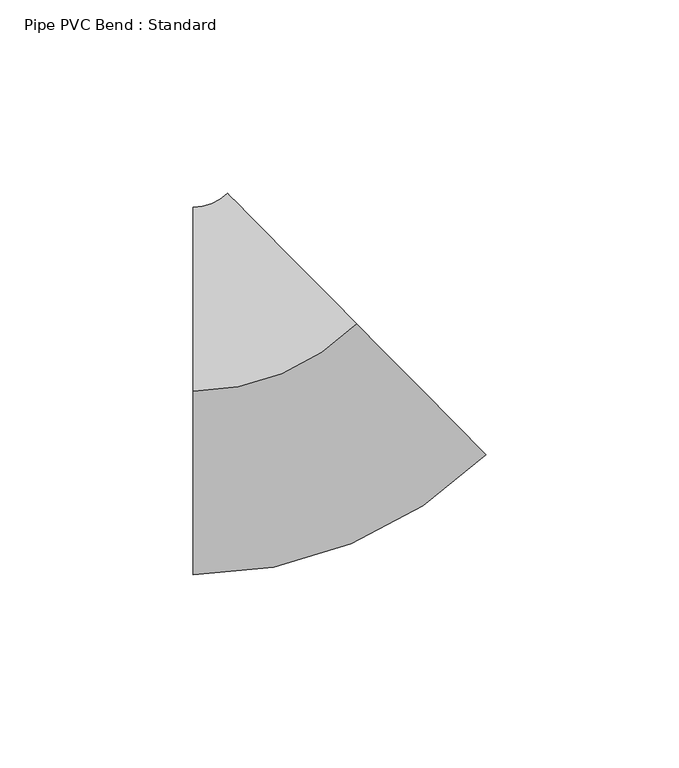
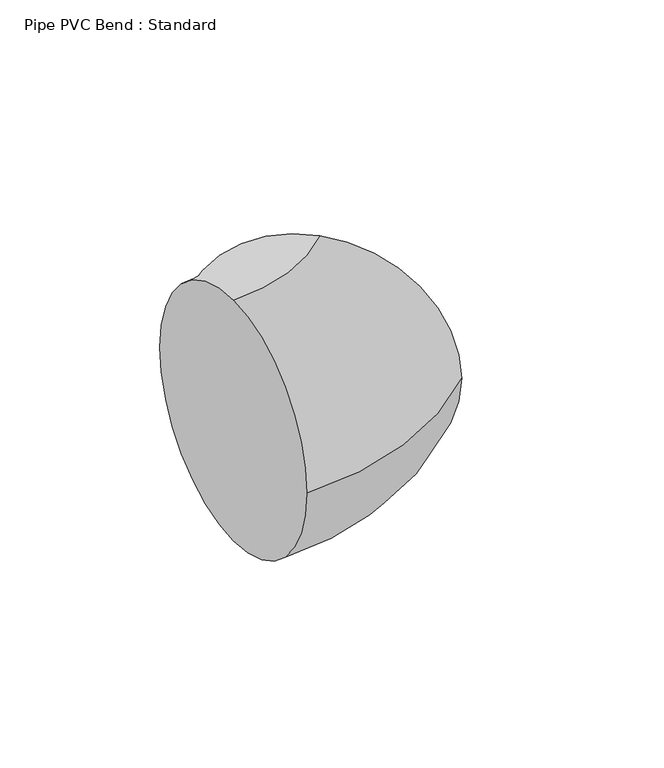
"""IFC4 building model written with IfcOpenShell, lengths in millimetres: pipe fitting geometry, Pipe PVC Bend : Standard."""

from ifc_helpers import new_model, si_unit, point, frame, origin, place, context, project, spatial, circle_curve, ellipse_curve, trimmed, source, transform, mapped, element, save
from ifc_brep_helpers import plane_surface, revolved_surface, advanced_brep


def pipe_pvc_bend_standard_344f7d17(model_context):
    return source(origin(), model_context, "Body", "AdvancedBrep", [
        advanced_brep(
        [(-24.789614, 0.0, 47.625), (-24.789614, 47.625, 0.0), (-24.789614, 0.0, -47.625), (-24.789614, -47.625, 0.0), (17.6268685, 17.4303892, 47.625), (51.1135652, -16.4337773, 0.0), (17.6268685, 17.4303892, -47.625), (-15.8598282, 51.2945556, 0.0)],
        [
            (0, 1, circle_curve(frame((-24.789614, 0.0, 0.0), z_axis=(-1.0, 0.0, 0.0), x_axis=(0.0, 1.0, 0.0)), 47.625)),
            (1, 2, circle_curve(frame((-24.789614, 0.0, 0.0), z_axis=(-1.0, 0.0, 0.0), x_axis=(0.0, 1.0, 0.0)), 47.625)),
            (2, 3, circle_curve(frame((-24.789614, 0.0, 0.0), z_axis=(-1.0, 0.0, 0.0), x_axis=(0.0, 1.0, 0.0)), 47.625)),
            (3, 0, circle_curve(frame((-24.789614, 0.0, 0.0), z_axis=(-1.0, 0.0, 0.0), x_axis=(0.0, 1.0, 0.0)), 47.625)),
            (4, 5, circle_curve(frame((17.6268685, 17.4303892, 0.0), z_axis=(0.7110586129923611, 0.7031327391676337, 0.0), x_axis=(-0.7031327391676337, 0.7110586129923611, 0.0)), 47.625)),
            (5, 6, circle_curve(frame((17.6268685, 17.4303892, 0.0), z_axis=(0.7110586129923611, 0.7031327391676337, 0.0), x_axis=(-0.7031327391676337, 0.7110586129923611, 0.0)), 47.625)),
            (6, 7, circle_curve(frame((17.6268685, 17.4303892, 0.0), z_axis=(0.7110586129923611, 0.7031327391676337, 0.0), x_axis=(-0.7031327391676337, 0.7110586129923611, 0.0)), 47.625)),
            (7, 4, circle_curve(frame((17.6268685, 17.4303892, 0.0), z_axis=(0.7110586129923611, 0.7031327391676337, 0.0), x_axis=(-0.7031327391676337, 0.7110586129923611, 0.0)), 47.625)),
            (7, 1, circle_curve(frame((-24.789614, 60.325, 0.0), z_axis=(0.0, 0.0, -1.0), x_axis=(0.0, -1.0, 0.0)), 12.7)),
            (0, 4, circle_curve(frame((-24.789614, 60.325, 47.625), z_axis=(0.0, 0.0, 1.0), x_axis=(0.0, -1.0, 0.0)), 60.325)),
            (6, 2, circle_curve(frame((-24.789614, 60.325, -47.625), z_axis=(0.0, 0.0, -1.0), x_axis=(0.0, -1.0, 0.0)), 60.325)),
            (5, 3, circle_curve(frame((-24.789614, 60.325, 0.0), z_axis=(0.0, 0.0, -1.0), x_axis=(0.0, -1.0, 0.0)), 107.95)),
        ],
        [
            plane_surface(frame((-24.789614, 0.0, 0.0), z_axis=(-1.0, 0.0, 0.0), x_axis=(0.0, 0.0, 1.0))),
            plane_surface(frame((17.6268685, 17.4303892, 0.0), z_axis=(0.7110586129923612, 0.7031327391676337, 0.0), x_axis=(0.0, 0.0, 1.0))),
            revolved_surface(trimmed(ellipse_curve(frame((-24.789614, 0.0, 0.0), z_axis=(-1.0, 0.0, 0.0), x_axis=(0.0, 1.0, 0.0)), 47.625, 47.625), [point((-24.789614, 0.0, 47.625))], [point((-24.789614, 47.625, 0.0))], True, "CARTESIAN"), (-24.789614, 60.325, 0.0), (0.0, 0.0, 1.0)),
            revolved_surface(trimmed(ellipse_curve(frame((-24.789614, 0.0, 0.0), z_axis=(-1.0, 0.0, 0.0), x_axis=(0.0, 1.0, 0.0)), 47.625, 47.625), [point((-24.789614, 47.625, 0.0))], [point((-24.789614, 0.0, -47.625))], True, "CARTESIAN"), (-24.789614, 60.325, 0.0), (0.0, 0.0, 1.0)),
            revolved_surface(trimmed(ellipse_curve(frame((-24.789614, 0.0, 0.0), z_axis=(-1.0, 0.0, 0.0), x_axis=(0.0, 1.0, 0.0)), 47.625, 47.625), [point((-24.789614, 0.0, -47.625))], [point((-24.789614, -47.625, 0.0))], True, "CARTESIAN"), (-24.789614, 60.325, 0.0), (0.0, 0.0, 1.0)),
            revolved_surface(trimmed(ellipse_curve(frame((-24.789614, 0.0, 0.0), z_axis=(-1.0, 0.0, 0.0), x_axis=(0.0, 1.0, 0.0)), 47.625, 47.625), [point((-24.789614, -47.625, 0.0))], [point((-24.789614, 0.0, 47.625))], True, "CARTESIAN"), (-24.789614, 60.325, 0.0), (0.0, 0.0, 1.0)),
        ],
        [
            (0, [[1, 2, 3, 4]]),
            (1, [[5, 6, 7, 8]]),
            (2, [[9, -1, 10, -8]]),
            (3, [[11, -2, -9, -7]]),
            (4, [[12, -3, -11, -6]]),
            (5, [[-10, -4, -12, -5]]),
        ],
    ),
        advanced_brep(
        [(-24.789614, 0.0, 47.625), (-24.789614, 47.625, 0.0), (-24.789614, 0.0, -47.625), (-24.789614, -47.625, 0.0), (17.6268685, 17.4303892, 47.625), (51.1135652, -16.4337773, 0.0), (17.6268685, 17.4303892, -47.625), (-15.8598282, 51.2945556, 0.0)],
        [
            (0, 1, circle_curve(frame((-24.789614, 0.0, 0.0), z_axis=(-1.0, 0.0, 0.0), x_axis=(0.0, 1.0, 0.0)), 47.625)),
            (1, 2, circle_curve(frame((-24.789614, 0.0, 0.0), z_axis=(-1.0, 0.0, 0.0), x_axis=(0.0, 1.0, 0.0)), 47.625)),
            (2, 3, circle_curve(frame((-24.789614, 0.0, 0.0), z_axis=(-1.0, 0.0, 0.0), x_axis=(0.0, 1.0, 0.0)), 47.625)),
            (3, 0, circle_curve(frame((-24.789614, 0.0, 0.0), z_axis=(-1.0, 0.0, 0.0), x_axis=(0.0, 1.0, 0.0)), 47.625)),
            (4, 5, circle_curve(frame((17.6268685, 17.4303892, 0.0), z_axis=(0.7110586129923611, 0.7031327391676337, 0.0), x_axis=(-0.7031327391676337, 0.7110586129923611, 0.0)), 47.625)),
            (5, 6, circle_curve(frame((17.6268685, 17.4303892, 0.0), z_axis=(0.7110586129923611, 0.7031327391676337, 0.0), x_axis=(-0.7031327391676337, 0.7110586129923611, 0.0)), 47.625)),
            (6, 7, circle_curve(frame((17.6268685, 17.4303892, 0.0), z_axis=(0.7110586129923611, 0.7031327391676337, 0.0), x_axis=(-0.7031327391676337, 0.7110586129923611, 0.0)), 47.625)),
            (7, 4, circle_curve(frame((17.6268685, 17.4303892, 0.0), z_axis=(0.7110586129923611, 0.7031327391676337, 0.0), x_axis=(-0.7031327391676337, 0.7110586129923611, 0.0)), 47.625)),
            (7, 1, circle_curve(frame((-24.789614, 60.325, 0.0), z_axis=(0.0, 0.0, -1.0), x_axis=(0.0, -1.0, 0.0)), 12.7)),
            (0, 4, circle_curve(frame((-24.789614, 60.325, 47.625), z_axis=(0.0, 0.0, 1.0), x_axis=(0.0, -1.0, 0.0)), 60.325)),
            (6, 2, circle_curve(frame((-24.789614, 60.325, -47.625), z_axis=(0.0, 0.0, -1.0), x_axis=(0.0, -1.0, 0.0)), 60.325)),
            (5, 3, circle_curve(frame((-24.789614, 60.325, 0.0), z_axis=(0.0, 0.0, -1.0), x_axis=(0.0, -1.0, 0.0)), 107.95)),
        ],
        [
            plane_surface(frame((-24.789614, 0.0, 0.0), z_axis=(-1.0, 0.0, 0.0), x_axis=(0.0, 0.0, 1.0))),
            plane_surface(frame((17.6268685, 17.4303892, 0.0), z_axis=(0.7110586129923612, 0.7031327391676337, 0.0), x_axis=(0.0, 0.0, 1.0))),
            revolved_surface(trimmed(ellipse_curve(frame((-24.789614, 0.0, 0.0), z_axis=(-1.0, 0.0, 0.0), x_axis=(0.0, 1.0, 0.0)), 47.625, 47.625), [point((-24.789614, 0.0, 47.625))], [point((-24.789614, 47.625, 0.0))], True, "CARTESIAN"), (-24.789614, 60.325, 0.0), (0.0, 0.0, 1.0)),
            revolved_surface(trimmed(ellipse_curve(frame((-24.789614, 0.0, 0.0), z_axis=(-1.0, 0.0, 0.0), x_axis=(0.0, 1.0, 0.0)), 47.625, 47.625), [point((-24.789614, 47.625, 0.0))], [point((-24.789614, 0.0, -47.625))], True, "CARTESIAN"), (-24.789614, 60.325, 0.0), (0.0, 0.0, 1.0)),
            revolved_surface(trimmed(ellipse_curve(frame((-24.789614, 0.0, 0.0), z_axis=(-1.0, 0.0, 0.0), x_axis=(0.0, 1.0, 0.0)), 47.625, 47.625), [point((-24.789614, 0.0, -47.625))], [point((-24.789614, -47.625, 0.0))], True, "CARTESIAN"), (-24.789614, 60.325, 0.0), (0.0, 0.0, 1.0)),
            revolved_surface(trimmed(ellipse_curve(frame((-24.789614, 0.0, 0.0), z_axis=(-1.0, 0.0, 0.0), x_axis=(0.0, 1.0, 0.0)), 47.625, 47.625), [point((-24.789614, -47.625, 0.0))], [point((-24.789614, 0.0, 47.625))], True, "CARTESIAN"), (-24.789614, 60.325, 0.0), (0.0, 0.0, 1.0)),
        ],
        [
            (0, [[1, 2, 3, 4]]),
            (1, [[5, 6, 7, 8]]),
            (2, [[9, -1, 10, -8]]),
            (3, [[11, -2, -9, -7]]),
            (4, [[12, -3, -11, -6]]),
            (5, [[-10, -4, -12, -5]]),
        ],
    ),
    ])


if __name__ == "__main__":
    model = new_model("IFC4")
    model_context = context("Model", 3, world=origin())
    ifc_project = project(units=[si_unit("LENGTHUNIT", "METRE", prefix="MILLI")], contexts=[model_context])
    site = spatial("IfcSite", under=ifc_project)
    building = spatial("IfcBuilding", under=site)
    placement = place(None, origin())
    pipe_pvc_bend_standard_shape = pipe_pvc_bend_standard_344f7d17(model_context)
    element("IfcPipeFitting", 1, ObjectType="Pipe PVC Bend : Standard", at=placement, inside=building, context=model_context, shape_type="MappedRepresentation", body=[
        mapped(pipe_pvc_bend_standard_shape, transform((0.0, 0.0, 0.0), x_axis=(1.0, 0.0, 0.0), y_axis=(0.0, 1.0, 0.0), z_axis=(0.0, 0.0, 1.0))),
    ])
    save(model, "model.ifc")
